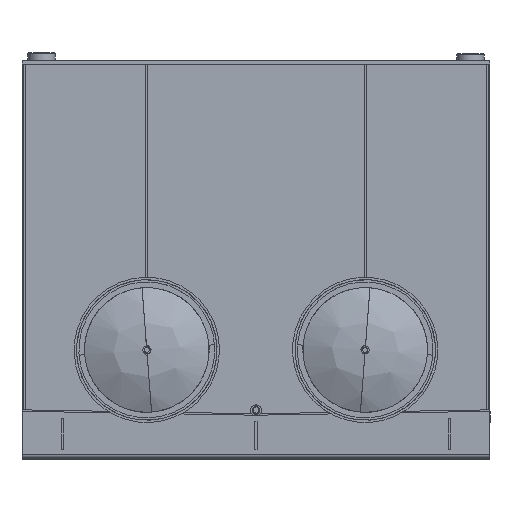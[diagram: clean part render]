
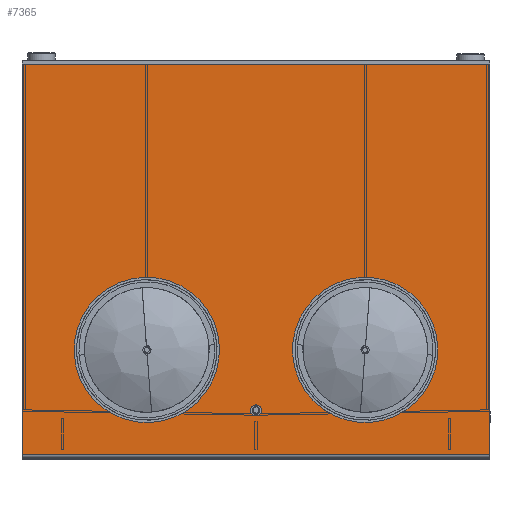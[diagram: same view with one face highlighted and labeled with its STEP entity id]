
A CAD part, top view. The second image highlights one B-rep face of the part: STEP entity #7365.
In plain terms, the highlighted planar face has unit normal (0, 0, 1) as drawn and (-1, 0, 0) by its records, which use the part's own axes.
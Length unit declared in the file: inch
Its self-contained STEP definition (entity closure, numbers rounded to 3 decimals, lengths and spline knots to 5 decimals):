
#29 = VECTOR ( 'NONE', #3435, 39.37008 ) ;
#455 = CIRCLE ( 'NONE', #7934, 0.72 ) ;
#457 = ORIENTED_EDGE ( 'NONE', *, *, #4357, .F. ) ;
#709 = VERTEX_POINT ( 'NONE', #4776 ) ;
#879 = DIRECTION ( 'NONE',  ( 0., 0., 1. ) ) ;
#888 = FACE_OUTER_BOUND ( 'NONE', #4796, .T. ) ;
#929 = CARTESIAN_POINT ( 'NONE',  ( -0.375, 0., 60. ) ) ;
#939 = ORIENTED_EDGE ( 'NONE', *, *, #6799, .F. ) ;
#1032 = VERTEX_POINT ( 'NONE', #2290 ) ;
#1124 = ORIENTED_EDGE ( 'NONE', *, *, #4265, .F. ) ;
#1266 = DIRECTION ( 'NONE',  ( 0., 0., -1. ) ) ;
#1278 = CARTESIAN_POINT ( 'NONE',  ( -0.375, 50.125, 60. ) ) ;
#1301 = ORIENTED_EDGE ( 'NONE', *, *, #3140, .T. ) ;
#1318 = CARTESIAN_POINT ( 'NONE',  ( -0.375, 13.5, 44. ) ) ;
#1424 = EDGE_LOOP ( 'NONE', ( #1124, #457 ) ) ;
#1517 = FACE_BOUND ( 'NONE', #1424, .T. ) ;
#1795 = CIRCLE ( 'NONE', #7428, 8. ) ;
#1847 = EDGE_LOOP ( 'NONE', ( #6792, #5148 ) ) ;
#1960 = DIRECTION ( 'NONE',  ( 0., 0., 1. ) ) ;
#1996 = CARTESIAN_POINT ( 'NONE',  ( -0.375, 0., 60. ) ) ;
#2209 = CARTESIAN_POINT ( 'NONE',  ( -0.375, 50.125, 60. ) ) ;
#2290 = CARTESIAN_POINT ( 'NONE',  ( -0.375, 5.75, 29.28 ) ) ;
#2431 = CIRCLE ( 'NONE', #7671, 8. ) ;
#2611 = DIRECTION ( 'NONE',  ( -1., 0., 0. ) ) ;
#2623 = DIRECTION ( 'NONE',  ( 0., 0., 1. ) ) ;
#2655 = VERTEX_POINT ( 'NONE', #6144 ) ;
#2683 = DIRECTION ( 'NONE',  ( -1., 0., 0. ) ) ;
#2961 = DIRECTION ( 'NONE',  ( 0., 0., 1. ) ) ;
#3059 = LINE ( 'NONE', #6839, #6110 ) ;
#3098 = ORIENTED_EDGE ( 'NONE', *, *, #4966, .T. ) ;
#3123 = CARTESIAN_POINT ( 'NONE',  ( -0.375, 5.75, 30. ) ) ;
#3140 = EDGE_CURVE ( 'NONE', #6664, #3387, #4167, .T. ) ;
#3209 = VECTOR ( 'NONE', #7325, 39.37008 ) ;
#3213 = VECTOR ( 'NONE', #4718, 39.37008 ) ;
#3362 = VERTEX_POINT ( 'NONE', #4411 ) ;
#3387 = VERTEX_POINT ( 'NONE', #5185 ) ;
#3435 = DIRECTION ( 'NONE',  ( 0., -1., 0. ) ) ;
#3621 = AXIS2_PLACEMENT_3D ( 'NONE', #1318, #6328, #2623 ) ;
#3634 = EDGE_CURVE ( 'NONE', #6314, #1032, #455, .T. ) ;
#3648 = CARTESIAN_POINT ( 'NONE',  ( -0.375, 5.75, 30.72 ) ) ;
#3872 = ORIENTED_EDGE ( 'NONE', *, *, #4099, .F. ) ;
#3928 = FACE_BOUND ( 'NONE', #7076, .T. ) ;
#4045 = EDGE_CURVE ( 'NONE', #3362, #3387, #3059, .T. ) ;
#4099 = EDGE_CURVE ( 'NONE', #5686, #709, #1795, .T. ) ;
#4167 = LINE ( 'NONE', #4830, #3209 ) ;
#4205 = ORIENTED_EDGE ( 'NONE', *, *, #4045, .F. ) ;
#4265 = EDGE_CURVE ( 'NONE', #5811, #2655, #5329, .T. ) ;
#4342 = CARTESIAN_POINT ( 'NONE',  ( -0.375, 13.5, 24. ) ) ;
#4357 = EDGE_CURVE ( 'NONE', #2655, #5811, #6770, .T. ) ;
#4411 = CARTESIAN_POINT ( 'NONE',  ( -0.375, 0.125, 60. ) ) ;
#4457 = EDGE_CURVE ( 'NONE', #1032, #6314, #6381, .T. ) ;
#4541 = CARTESIAN_POINT ( 'NONE',  ( -0.375, 13.5, 52. ) ) ;
#4718 = DIRECTION ( 'NONE',  ( 0., 0., -1. ) ) ;
#4738 = VERTEX_POINT ( 'NONE', #1278 ) ;
#4776 = CARTESIAN_POINT ( 'NONE',  ( -0.375, 13.5, 8. ) ) ;
#4796 = EDGE_LOOP ( 'NONE', ( #1301, #4205, #5280, #3098 ) ) ;
#4830 = CARTESIAN_POINT ( 'NONE',  ( -0.375, 0., 0. ) ) ;
#4966 = EDGE_CURVE ( 'NONE', #4738, #6664, #5220, .T. ) ;
#5089 = CARTESIAN_POINT ( 'NONE',  ( -0.375, 5.75, 30. ) ) ;
#5130 = PLANE ( 'NONE',  #7480 ) ;
#5148 = ORIENTED_EDGE ( 'NONE', *, *, #4457, .F. ) ;
#5185 = CARTESIAN_POINT ( 'NONE',  ( -0.375, 0.125, 0. ) ) ;
#5220 = LINE ( 'NONE', #2209, #3213 ) ;
#5280 = ORIENTED_EDGE ( 'NONE', *, *, #6162, .F. ) ;
#5329 = CIRCLE ( 'NONE', #5586, 8. ) ;
#5348 = DIRECTION ( 'NONE',  ( -1., 0., 0. ) ) ;
#5586 = AXIS2_PLACEMENT_3D ( 'NONE', #5926, #8104, #2961 ) ;
#5686 = VERTEX_POINT ( 'NONE', #4342 ) ;
#5785 = DIRECTION ( 'NONE',  ( 1., 0., 0. ) ) ;
#5811 = VERTEX_POINT ( 'NONE', #4541 ) ;
#5926 = CARTESIAN_POINT ( 'NONE',  ( -0.375, 13.5, 44. ) ) ;
#6110 = VECTOR ( 'NONE', #1266, 39.37008 ) ;
#6115 = LINE ( 'NONE', #929, #29 ) ;
#6144 = CARTESIAN_POINT ( 'NONE',  ( -0.375, 13.5, 36. ) ) ;
#6162 = EDGE_CURVE ( 'NONE', #4738, #3362, #6115, .T. ) ;
#6249 = AXIS2_PLACEMENT_3D ( 'NONE', #3123, #6940, #7481 ) ;
#6314 = VERTEX_POINT ( 'NONE', #3648 ) ;
#6328 = DIRECTION ( 'NONE',  ( -1., 0., 0. ) ) ;
#6348 = CARTESIAN_POINT ( 'NONE',  ( -0.375, 13.5, 16. ) ) ;
#6381 = CIRCLE ( 'NONE', #6249, 0.72 ) ;
#6555 = FACE_BOUND ( 'NONE', #1847, .T. ) ;
#6664 = VERTEX_POINT ( 'NONE', #7984 ) ;
#6770 = CIRCLE ( 'NONE', #3621, 8. ) ;
#6792 = ORIENTED_EDGE ( 'NONE', *, *, #3634, .F. ) ;
#6799 = EDGE_CURVE ( 'NONE', #709, #5686, #2431, .T. ) ;
#6839 = CARTESIAN_POINT ( 'NONE',  ( -0.375, 0.125, 60. ) ) ;
#6940 = DIRECTION ( 'NONE',  ( -1., 0., 0. ) ) ;
#7076 = EDGE_LOOP ( 'NONE', ( #3872, #939 ) ) ;
#7139 = DIRECTION ( 'NONE',  ( 0., 0., -1. ) ) ;
#7236 = CARTESIAN_POINT ( 'NONE',  ( -0.375, 13.5, 16. ) ) ;
#7325 = DIRECTION ( 'NONE',  ( 0., -1., 0. ) ) ;
#7365 = ADVANCED_FACE ( 'NONE', ( #6555, #3928, #1517, #888 ), #5130, .F. ) ;
#7428 = AXIS2_PLACEMENT_3D ( 'NONE', #6348, #2683, #879 ) ;
#7480 = AXIS2_PLACEMENT_3D ( 'NONE', #1996, #5785, #7139 ) ;
#7481 = DIRECTION ( 'NONE',  ( 0., 0., 1. ) ) ;
#7671 = AXIS2_PLACEMENT_3D ( 'NONE', #7236, #5348, #7759 ) ;
#7759 = DIRECTION ( 'NONE',  ( 0., 0., 1. ) ) ;
#7934 = AXIS2_PLACEMENT_3D ( 'NONE', #5089, #2611, #1960 ) ;
#7984 = CARTESIAN_POINT ( 'NONE',  ( -0.375, 50.125, 0. ) ) ;
#8104 = DIRECTION ( 'NONE',  ( -1., 0., 0. ) ) ;
